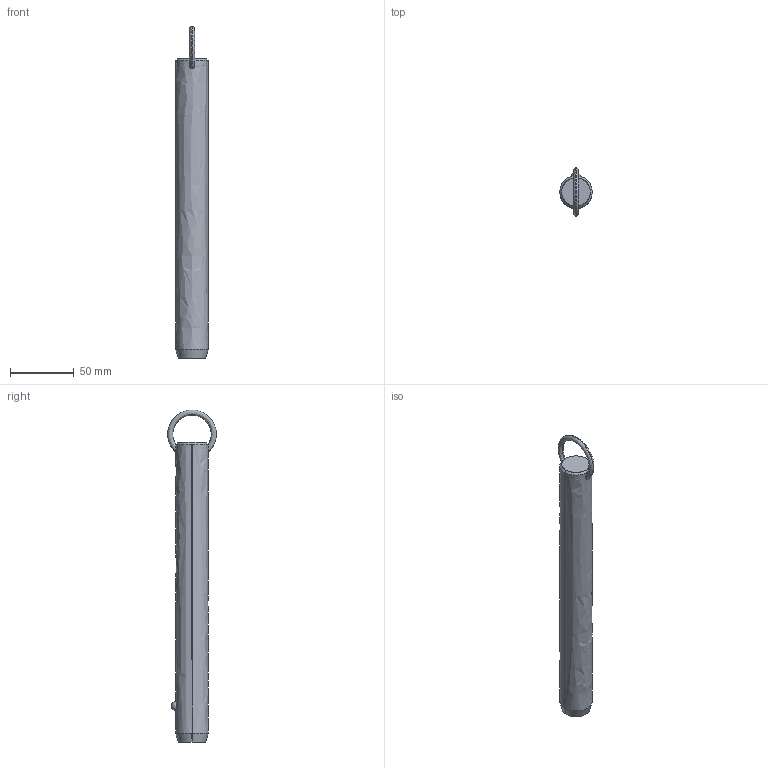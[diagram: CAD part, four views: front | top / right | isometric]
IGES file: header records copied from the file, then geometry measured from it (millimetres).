
Start section: SolidWorks IGES file using analytic representation for surfaces
Global section: file name: C:\Users\liam_\OneDrive\Documents\WORK\Work for WixRoyd\Job Files\J-00019 - Matt Davis CAD Checking\04. CAD Drawings\automotion20190605\P1250.2_v2\P1250.2_v2_20190729_IGES\P1250.100-750.igs; native system: SolidWorks 2017; preprocessor: SolidWorks 2017; author: liam_; date: 190730.174943; units: millimetre
Bounding box: 25.4 x 38.09 x 260.3 mm (x, y, z)
Surface area: 20517.5 mm2 (no closed solid volume)
Topology: 0 solids, 0 shells, 12 faces, 298 edges, 296 vertices
Faces by surface type: revolution 8, bspline 4
